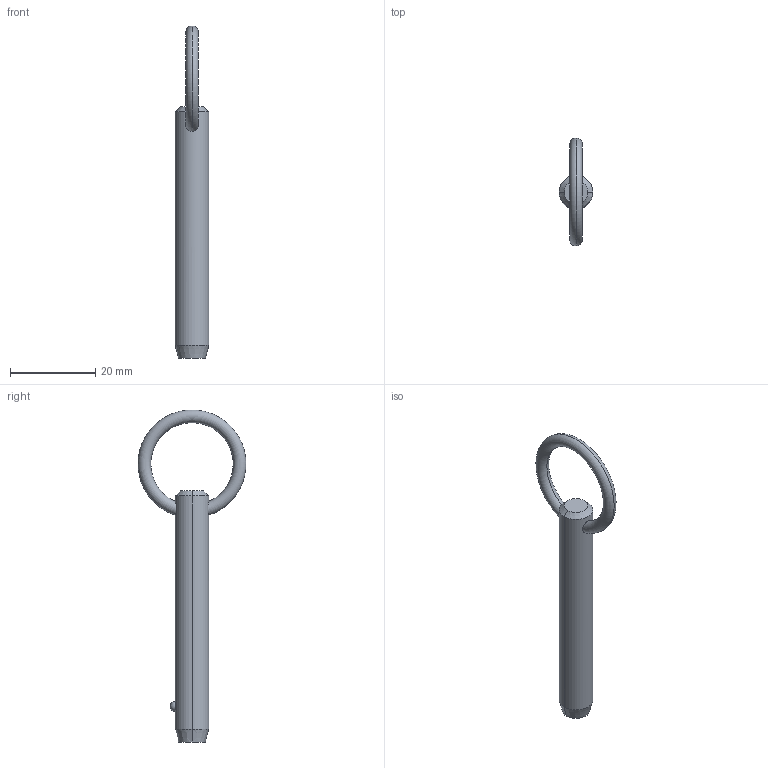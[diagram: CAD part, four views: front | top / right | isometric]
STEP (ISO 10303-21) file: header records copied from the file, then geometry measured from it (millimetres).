
FILE_DESCRIPTION (( 'STEP AP203' ), '1' );
FILE_NAME ('P1250.031-170.step', '2019-07-29T19:49:53', ( '' ), ( '' ), 'SwSTEP 2.0', 'SolidWorks 2017', '' );
FILE_SCHEMA (( 'CONFIG_CONTROL_DESIGN' ));
Length unit declared in the file: millimetre
Products named in the file (1): P1250.031-170
Bounding box: 7.93 x 25.36 x 78.1 mm (x, y, z)
Volume: 3318 mm3; surface area: 2107 mm2
Topology: 1 solids, 1 shells, 12 faces, 28 edges, 17 vertices
Faces by surface type: cone 4, torus 2, sphere 2, cylinder 2, plane 2
Entity records: 509 total; most frequent: CARTESIAN_POINT 176, DIRECTION 56, ORIENTED_EDGE 48, AXIS2_PLACEMENT_3D 25, EDGE_CURVE 24, VERTEX_POINT 15, EDGE_LOOP 15, ADVANCED_FACE 12
